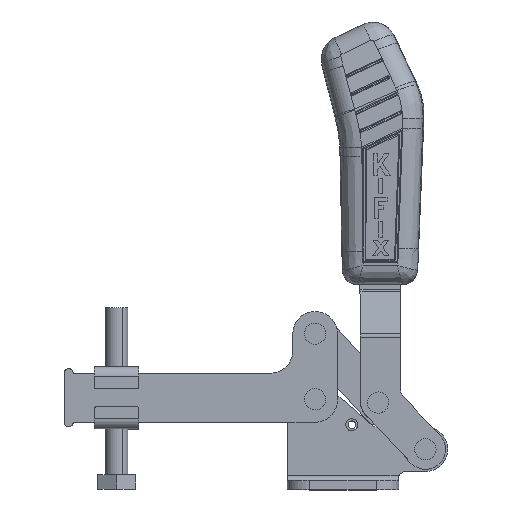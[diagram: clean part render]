
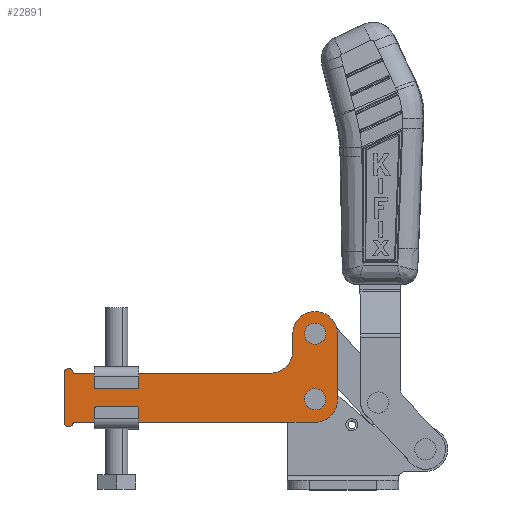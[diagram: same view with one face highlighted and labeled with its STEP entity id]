
A CAD part, top view. The second image highlights one B-rep face of the part: STEP entity #22891.
In plain terms, the highlighted planar face has unit normal (0, 0, 1).
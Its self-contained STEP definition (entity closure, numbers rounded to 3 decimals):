
#176 = VERTEX_POINT ( 'NONE', #11244 ) ;
#342 = CARTESIAN_POINT ( 'NONE',  ( 69.5, -11., 0. ) ) ;
#650 = LINE ( 'NONE', #17744, #20809 ) ;
#855 = VERTEX_POINT ( 'NONE', #3013 ) ;
#1137 = AXIS2_PLACEMENT_3D ( 'NONE', #23224, #11568, #25179 ) ;
#1217 = CARTESIAN_POINT ( 'NONE',  ( 79.5, -1., 0. ) ) ;
#1503 = CARTESIAN_POINT ( 'NONE',  ( 2., 11., 0. ) ) ;
#1914 = CARTESIAN_POINT ( 'NONE',  ( 79.5, -1., 0. ) ) ;
#2119 = ORIENTED_EDGE ( 'NONE', *, *, #4205, .T. ) ;
#2427 = DIRECTION ( 'NONE',  ( 0., 0., 1. ) ) ;
#2497 = DIRECTION ( 'NONE',  ( 0., 0., 1. ) ) ;
#2541 = VECTOR ( 'NONE', #9006, 1000. ) ;
#2595 = EDGE_CURVE ( 'NONE', #16891, #14554, #24414, .T. ) ;
#3013 = CARTESIAN_POINT ( 'NONE',  ( 73.5, 28.7, 0. ) ) ;
#3428 = EDGE_CURVE ( 'NONE', #14554, #17783, #12794, .T. ) ;
#4205 = EDGE_CURVE ( 'NONE', #23611, #16188, #21353, .T. ) ;
#4607 = CARTESIAN_POINT ( 'NONE',  ( 59.5, 28.7, 0. ) ) ;
#4904 = CARTESIAN_POINT ( 'NONE',  ( 65.5, -0.7, 0. ) ) ;
#4967 = CARTESIAN_POINT ( 'NONE',  ( 69.5, -0.7, 0. ) ) ;
#4973 = CIRCLE ( 'NONE', #20290, 2. ) ;
#5171 = FACE_BOUND ( 'NONE', #16541, .T. ) ;
#5245 = ORIENTED_EDGE ( 'NONE', *, *, #18229, .T. ) ;
#5317 = CIRCLE ( 'NONE', #6368, 4. ) ;
#5408 = DIRECTION ( 'NONE',  ( 0., 0., -1. ) ) ;
#5409 = CARTESIAN_POINT ( 'NONE',  ( -43., -11., 0. ) ) ;
#5590 = ORIENTED_EDGE ( 'NONE', *, *, #23605, .F. ) ;
#5625 = VERTEX_POINT ( 'NONE', #9014 ) ;
#5640 = DIRECTION ( 'NONE',  ( 1., 0., 0. ) ) ;
#5644 = CARTESIAN_POINT ( 'NONE',  ( 79.5, 28.7, 0. ) ) ;
#5832 = DIRECTION ( 'NONE',  ( 0., 0., 1. ) ) ;
#5892 = CARTESIAN_POINT ( 'NONE',  ( 69.5, 28.7, 0. ) ) ;
#6368 = AXIS2_PLACEMENT_3D ( 'NONE', #7053, #20703, #9051 ) ;
#6859 = DIRECTION ( 'NONE',  ( 0., 0., -1. ) ) ;
#6942 = DIRECTION ( 'NONE',  ( 1., 0., 0. ) ) ;
#7035 = CIRCLE ( 'NONE', #16111, 4. ) ;
#7053 = CARTESIAN_POINT ( 'NONE',  ( 69.5, -0.7, 0. ) ) ;
#7376 = EDGE_CURVE ( 'NONE', #23179, #5625, #11827, .T. ) ;
#7883 = DIRECTION ( 'NONE',  ( 1., 0., 0. ) ) ;
#8110 = LINE ( 'NONE', #16270, #23057 ) ;
#8321 = ORIENTED_EDGE ( 'NONE', *, *, #13769, .F. ) ;
#8364 = EDGE_CURVE ( 'NONE', #176, #15799, #8110, .T. ) ;
#8442 = DIRECTION ( 'NONE',  ( 0., -1., 0. ) ) ;
#8748 = AXIS2_PLACEMENT_3D ( 'NONE', #14185, #2497, #16155 ) ;
#8886 = VECTOR ( 'NONE', #5640, 1000. ) ;
#8981 = ORIENTED_EDGE ( 'NONE', *, *, #9405, .T. ) ;
#9006 = DIRECTION ( 'NONE',  ( 0., 1., 0. ) ) ;
#9014 = CARTESIAN_POINT ( 'NONE',  ( 49.5, 11., 0. ) ) ;
#9051 = DIRECTION ( 'NONE',  ( 1., 0., 0. ) ) ;
#9283 = PLANE ( 'NONE',  #11796 ) ;
#9405 = EDGE_CURVE ( 'NONE', #15799, #16891, #4973, .T. ) ;
#10378 = FACE_OUTER_BOUND ( 'NONE', #19450, .T. ) ;
#10589 = CARTESIAN_POINT ( 'NONE',  ( -41., -11., 0. ) ) ;
#10682 = EDGE_CURVE ( 'NONE', #17783, #23611, #12922, .T. ) ;
#10823 = ORIENTED_EDGE ( 'NONE', *, *, #3428, .T. ) ;
#11231 = AXIS2_PLACEMENT_3D ( 'NONE', #17527, #5832, #19511 ) ;
#11244 = CARTESIAN_POINT ( 'NONE',  ( -43., 11., 0. ) ) ;
#11568 = DIRECTION ( 'NONE',  ( 0., 0., 1. ) ) ;
#11624 = CARTESIAN_POINT ( 'NONE',  ( -39., 11., 0. ) ) ;
#11796 = AXIS2_PLACEMENT_3D ( 'NONE', #1503, #5408, #19087 ) ;
#11827 = CIRCLE ( 'NONE', #22378, 10. ) ;
#11849 = EDGE_CURVE ( 'NONE', #21201, #176, #12581, .T. ) ;
#12099 = VERTEX_POINT ( 'NONE', #21612 ) ;
#12183 = CIRCLE ( 'NONE', #24327, 4. ) ;
#12210 = FACE_BOUND ( 'NONE', #23846, .T. ) ;
#12529 = DIRECTION ( 'NONE',  ( 1., 0., 0. ) ) ;
#12581 = CIRCLE ( 'NONE', #21803, 2. ) ;
#12685 = CARTESIAN_POINT ( 'NONE',  ( -39., -11., 0. ) ) ;
#12794 = CIRCLE ( 'NONE', #8748, 10. ) ;
#12922 = LINE ( 'NONE', #1217, #2541 ) ;
#13762 = ORIENTED_EDGE ( 'NONE', *, *, #11849, .T. ) ;
#13769 = EDGE_CURVE ( 'NONE', #12099, #16918, #7035, .T. ) ;
#13889 = DIRECTION ( 'NONE',  ( -1., 0., 0. ) ) ;
#14108 = CARTESIAN_POINT ( 'NONE',  ( -41., 11., 0. ) ) ;
#14160 = CARTESIAN_POINT ( 'NONE',  ( 59.5, 21., 0. ) ) ;
#14185 = CARTESIAN_POINT ( 'NONE',  ( 69.5, -1., 0. ) ) ;
#14554 = VERTEX_POINT ( 'NONE', #342 ) ;
#14817 = ORIENTED_EDGE ( 'NONE', *, *, #10682, .T. ) ;
#15776 = ORIENTED_EDGE ( 'NONE', *, *, #8364, .T. ) ;
#15799 = VERTEX_POINT ( 'NONE', #5409 ) ;
#15862 = CARTESIAN_POINT ( 'NONE',  ( 49.5, 11., 0. ) ) ;
#15881 = CARTESIAN_POINT ( 'NONE',  ( 65.5, 28.7, 0. ) ) ;
#16079 = DIRECTION ( 'NONE',  ( -1., 0., 0. ) ) ;
#16111 = AXIS2_PLACEMENT_3D ( 'NONE', #4967, #18642, #6942 ) ;
#16155 = DIRECTION ( 'NONE',  ( 1., 0., 0. ) ) ;
#16188 = VERTEX_POINT ( 'NONE', #4607 ) ;
#16270 = CARTESIAN_POINT ( 'NONE',  ( -43., 11., 0. ) ) ;
#16541 = EDGE_LOOP ( 'NONE', ( #5590, #23690 ) ) ;
#16891 = VERTEX_POINT ( 'NONE', #12685 ) ;
#16918 = VERTEX_POINT ( 'NONE', #4904 ) ;
#17198 = EDGE_CURVE ( 'NONE', #16918, #12099, #5317, .T. ) ;
#17527 = CARTESIAN_POINT ( 'NONE',  ( 69.5, 28.7, 0. ) ) ;
#17744 = CARTESIAN_POINT ( 'NONE',  ( 59.5, 28.7, 0. ) ) ;
#17783 = VERTEX_POINT ( 'NONE', #1914 ) ;
#17874 = VERTEX_POINT ( 'NONE', #15881 ) ;
#18229 = EDGE_CURVE ( 'NONE', #5625, #21201, #22380, .T. ) ;
#18551 = CARTESIAN_POINT ( 'NONE',  ( 49.5, 21., 0. ) ) ;
#18642 = DIRECTION ( 'NONE',  ( 0., 0., 1. ) ) ;
#19087 = DIRECTION ( 'NONE',  ( -1., 0., 0. ) ) ;
#19450 = EDGE_LOOP ( 'NONE', ( #13762, #15776, #8981, #23909, #10823, #14817, #2119, #22215, #22587, #5245 ) ) ;
#19511 = DIRECTION ( 'NONE',  ( 1., 0., 0. ) ) ;
#19570 = DIRECTION ( 'NONE',  ( 0., 0., 1. ) ) ;
#19719 = DIRECTION ( 'NONE',  ( 0., -1., 0. ) ) ;
#20119 = CIRCLE ( 'NONE', #1137, 4. ) ;
#20290 = AXIS2_PLACEMENT_3D ( 'NONE', #10589, #24205, #12529 ) ;
#20505 = DIRECTION ( 'NONE',  ( 1., 0., 0. ) ) ;
#20703 = DIRECTION ( 'NONE',  ( 0., 0., 1. ) ) ;
#20781 = ORIENTED_EDGE ( 'NONE', *, *, #17198, .F. ) ;
#20809 = VECTOR ( 'NONE', #19719, 1000. ) ;
#21201 = VERTEX_POINT ( 'NONE', #11624 ) ;
#21288 = EDGE_CURVE ( 'NONE', #16188, #23179, #650, .T. ) ;
#21353 = CIRCLE ( 'NONE', #11231, 10. ) ;
#21612 = CARTESIAN_POINT ( 'NONE',  ( 73.5, -0.7, 0. ) ) ;
#21789 = VECTOR ( 'NONE', #13889, 1000. ) ;
#21803 = AXIS2_PLACEMENT_3D ( 'NONE', #14108, #2427, #16079 ) ;
#22215 = ORIENTED_EDGE ( 'NONE', *, *, #21288, .T. ) ;
#22378 = AXIS2_PLACEMENT_3D ( 'NONE', #18551, #6859, #20505 ) ;
#22380 = LINE ( 'NONE', #15862, #21789 ) ;
#22587 = ORIENTED_EDGE ( 'NONE', *, *, #7376, .T. ) ;
#22891 = ADVANCED_FACE ( 'NONE', ( #12210, #5171, #10378 ), #9283, .F. ) ;
#23057 = VECTOR ( 'NONE', #8442, 1000. ) ;
#23135 = CARTESIAN_POINT ( 'NONE',  ( 4., -11., 0. ) ) ;
#23179 = VERTEX_POINT ( 'NONE', #14160 ) ;
#23224 = CARTESIAN_POINT ( 'NONE',  ( 69.5, 28.7, 0. ) ) ;
#23425 = EDGE_CURVE ( 'NONE', #17874, #855, #12183, .T. ) ;
#23605 = EDGE_CURVE ( 'NONE', #855, #17874, #20119, .T. ) ;
#23611 = VERTEX_POINT ( 'NONE', #5644 ) ;
#23690 = ORIENTED_EDGE ( 'NONE', *, *, #23425, .F. ) ;
#23846 = EDGE_LOOP ( 'NONE', ( #8321, #20781 ) ) ;
#23909 = ORIENTED_EDGE ( 'NONE', *, *, #2595, .T. ) ;
#24205 = DIRECTION ( 'NONE',  ( 0., 0., 1. ) ) ;
#24327 = AXIS2_PLACEMENT_3D ( 'NONE', #5892, #19570, #7883 ) ;
#24414 = LINE ( 'NONE', #23135, #8886 ) ;
#25179 = DIRECTION ( 'NONE',  ( 1., 0., 0. ) ) ;
